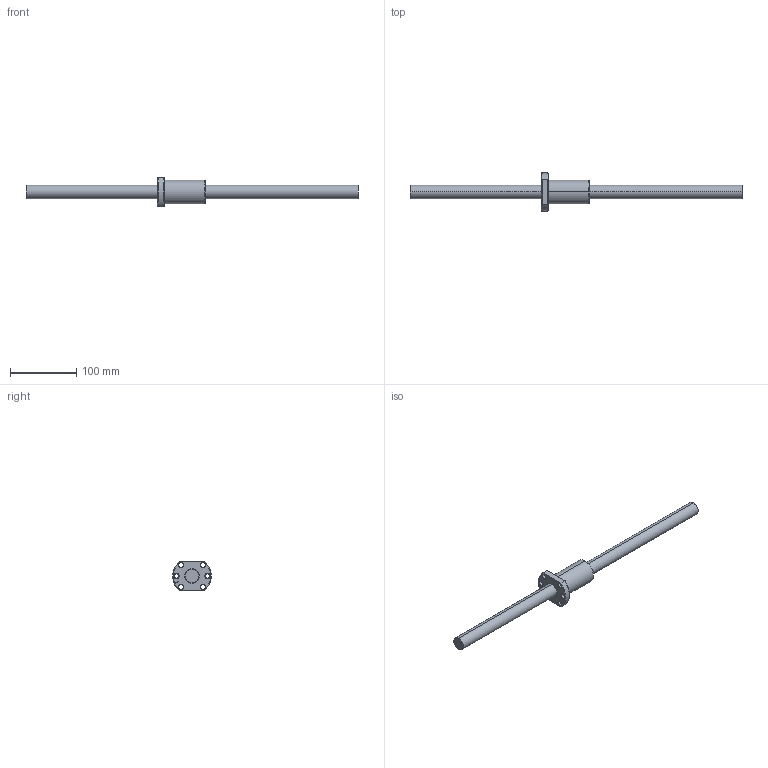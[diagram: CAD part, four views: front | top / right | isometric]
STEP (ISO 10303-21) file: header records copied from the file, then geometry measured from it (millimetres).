
FILE_DESCRIPTION (( 'STEP AP203' ), '1' );
FILE_NAME ('SFB2020-2.8.STEP', '2024-08-12T09:30:22', ( '' ), ( '' ), 'SwSTEP 2.0', 'SolidWorks 2022', '' );
FILE_SCHEMA (( 'CONFIG_CONTROL_DESIGN' ));
Length unit declared in the file: millimetre
Products named in the file (1): SFB2020-2.8
Bounding box: 500 x 58 x 44 mm (x, y, z)
Volume: 212764.9 mm3; surface area: 50408.7 mm2
Topology: 2 solids, 2 shells, 85 faces, 222 edges, 142 vertices
Faces by surface type: cylinder 35, cone 26, plane 12, bspline 6, torus 6
Entity records: 5584 total; most frequent: CARTESIAN_POINT 3473, ORIENTED_EDGE 444, DIRECTION 411, EDGE_CURVE 222, AXIS2_PLACEMENT_3D 168, VERTEX_POINT 142, EDGE_LOOP 102, CIRCLE 88
